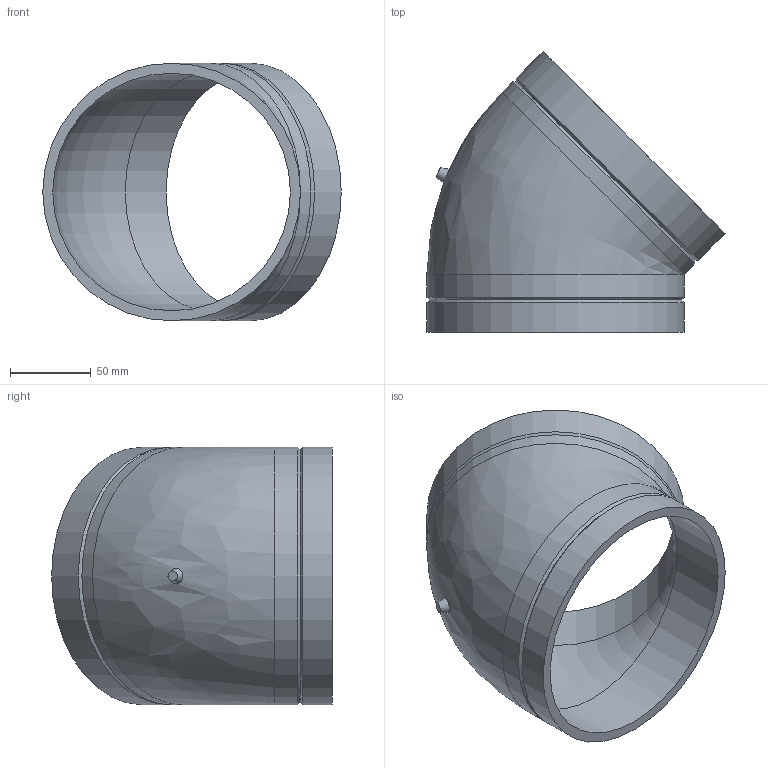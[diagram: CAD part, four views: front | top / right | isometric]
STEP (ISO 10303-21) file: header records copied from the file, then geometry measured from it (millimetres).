
FILE_DESCRIPTION(/* description */ (''),/* implementation_level */ '2;1');
FILE_NAME(/* name */ 'Z:\Geberit\Export\NewStep\PE Bogen Einzelteil_Ipart\stp\369045.stp',/* time_stamp */ '2014-04-02T11:57:20+02:00',/* author */ ('bruh'),/* organization */ (''),/* preprocessor_version */ 'ST-DEVELOPER v15.2',/* originating_system */ 'Autodesk Inventor 2014',/* authorisation */ '');
FILE_SCHEMA (('AUTOMOTIVE_DESIGN { 1 0 10303 214 3 1 1 }'));
Length unit declared in the file: millimetre
Products named in the file (1): 369045
Bounding box: 185.36 x 174.36 x 160 mm (x, y, z)
Volume: 402977.7 mm3; surface area: 137495.2 mm2
Topology: 1 solids, 1 shells, 16 faces, 32 edges, 17 vertices
Faces by surface type: cylinder 6, cone 5, plane 3, torus 1, bspline 1
Full cylindrical faces by diameter (mm): 147.6 x2, 160 x4
Entity records: 475 total; most frequent: CARTESIAN_POINT 169, DIRECTION 62, ORIENTED_EDGE 32, EDGE_LOOP 31, AXIS2_PLACEMENT_3D 31, FACE_BOUND 17, STYLED_ITEM 17, EDGE_CURVE 16
